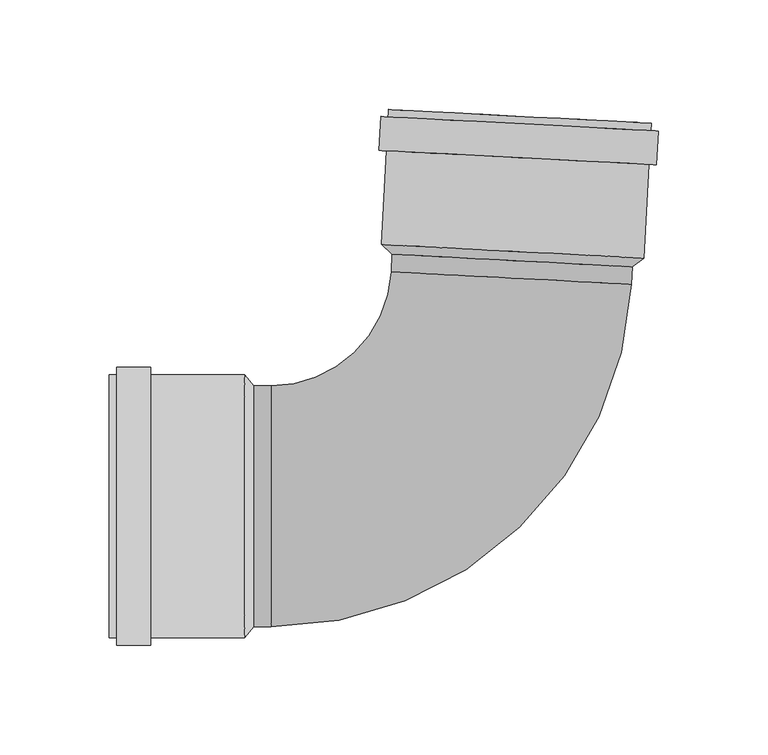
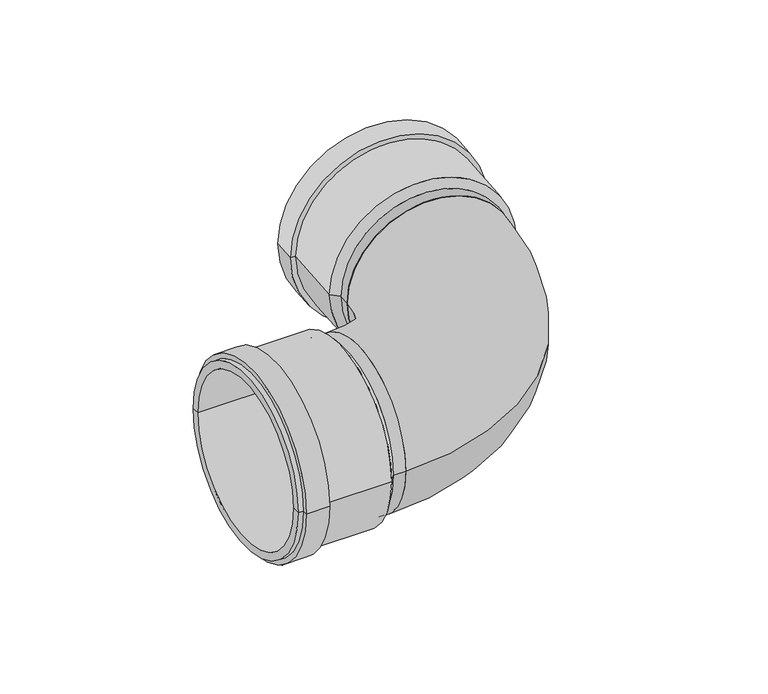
"""IFC4 building model written with IfcOpenShell, lengths in millimetres: pipe fitting geometry, pf_KGBD-SW : pf_KGBD-SW."""

from ifc_helpers import new_model, si_unit, point, frame, origin, origin_2d, place, context, project, spatial, polyline, circle_curve, ellipse_curve, trimmed, segment, composite_curve, outline, extrude, source, transform, mapped, element, save
from ifc_brep_helpers import plane_surface, cylinder_surface, revolved_surface, advanced_brep


def pipe_fitting_9a7229fe(model_context):
    return source(origin(), model_context, "Body", "SolidModel", [
        advanced_brep(
        [(60.8064585, 109.3536035, 0.0), (-49.0427903, 115.1105587, 0.0), (-53.9159899, 119.5717161, 0.0), (66.1192802, 113.2809342, 0.0), (5.8818341, 112.2320811, 0.0), (69.3536423, 174.9962394, 0.0), (-50.6816278, 181.2870214, 0.0), (-45.5886172, 181.020108, 0.0), (64.2606317, 175.2631528, 0.0), (69.1757, 171.600899, 0.0), (-50.85957, 177.8916809, 0.0), (72.5710405, 171.4229567, 0.0), (-54.2549105, 178.0696232, 0.0), (71.7598331, 155.944199, 0.0), (-55.0661178, 162.5908654, 0.0), (68.3644927, 156.1221412, 0.0), (-51.6707774, 162.4129231, 0.0), (61.0262696, 113.5478475, 0.0), (-48.8229793, 119.3048027, 0.0), (6.1016452, 116.4263251, 0.0)],
        [
            (0, 1, circle_curve(frame((5.8818341, 112.2320811, 0.0), z_axis=(0.052335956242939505, 0.9986295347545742, 0.0), x_axis=(-0.9986295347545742, 0.052335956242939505, 0.0)), 55.0)),
            (1, 2),
            (2, 3, circle_curve(frame((6.1016452, 116.4263251, 0.0), z_axis=(-0.052335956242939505, -0.9986295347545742, 0.0), x_axis=(-0.9986295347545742, 0.052335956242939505, 0.0)), 60.1)),
            (3, 0),
            (1, 0, circle_curve(frame((5.8818341, 112.2320811, 0.0), z_axis=(0.052335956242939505, 0.9986295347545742, 0.0), x_axis=(-0.9986295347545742, 0.052335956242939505, 0.0)), 55.0)),
            (3, 2, circle_curve(frame((6.1016452, 116.4263251, 0.0), z_axis=(-0.052335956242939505, -0.9986295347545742, 0.0), x_axis=(-0.9986295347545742, 0.052335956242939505, 0.0)), 60.1)),
            (4, 1),
            (0, 4),
            (5, 6, circle_curve(frame((9.3360072, 178.1416304, 0.0), z_axis=(0.052335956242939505, 0.9986295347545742, 0.0), x_axis=(-0.9986295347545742, 0.052335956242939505, 0.0)), 60.1)),
            (6, 7),
            (7, 8, circle_curve(frame((9.3360072, 178.1416304, 0.0), z_axis=(-0.052335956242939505, -0.9986295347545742, 0.0), x_axis=(-0.9986295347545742, 0.052335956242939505, 0.0)), 55.0)),
            (8, 5),
            (6, 5, circle_curve(frame((9.3360072, 178.1416304, 0.0), z_axis=(0.052335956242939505, 0.9986295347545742, 0.0), x_axis=(-0.9986295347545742, 0.052335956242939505, 0.0)), 60.1)),
            (8, 7, circle_curve(frame((9.3360072, 178.1416304, 0.0), z_axis=(-0.052335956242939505, -0.9986295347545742, 0.0), x_axis=(-0.9986295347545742, 0.052335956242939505, 0.0)), 55.0)),
            (9, 10, circle_curve(frame((9.158065, 174.74629, 0.0), z_axis=(0.052335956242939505, 0.9986295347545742, 0.0), x_axis=(-0.9986295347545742, 0.052335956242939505, 0.0)), 60.1)),
            (10, 6),
            (5, 9),
            (10, 9, circle_curve(frame((9.158065, 174.74629, 0.0), z_axis=(0.052335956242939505, 0.9986295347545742, 0.0), x_axis=(-0.9986295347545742, 0.052335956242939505, 0.0)), 60.1)),
            (11, 12, circle_curve(frame((9.158065, 174.74629, 0.0), z_axis=(0.052335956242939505, 0.9986295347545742, 0.0), x_axis=(-0.9986295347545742, 0.052335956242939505, 0.0)), 63.5)),
            (12, 10),
            (9, 11),
            (12, 11, circle_curve(frame((9.158065, 174.74629, 0.0), z_axis=(0.052335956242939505, 0.9986295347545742, 0.0), x_axis=(-0.9986295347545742, 0.052335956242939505, 0.0)), 63.5)),
            (13, 14, circle_curve(frame((8.3468577, 159.2675322, 0.0), z_axis=(0.052335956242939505, 0.9986295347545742, 0.0), x_axis=(-0.9986295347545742, 0.052335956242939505, 0.0)), 63.5)),
            (14, 12),
            (11, 13),
            (14, 13, circle_curve(frame((8.3468577, 159.2675322, 0.0), z_axis=(0.052335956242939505, 0.9986295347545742, 0.0), x_axis=(-0.9986295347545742, 0.052335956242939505, 0.0)), 63.5)),
            (15, 16, circle_curve(frame((8.3468577, 159.2675322, 0.0), z_axis=(0.052335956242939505, 0.9986295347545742, 0.0), x_axis=(-0.9986295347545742, 0.052335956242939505, 0.0)), 60.1)),
            (16, 14),
            (13, 15),
            (16, 15, circle_curve(frame((8.3468577, 159.2675322, 0.0), z_axis=(0.052335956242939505, 0.9986295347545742, 0.0), x_axis=(-0.9986295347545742, 0.052335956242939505, 0.0)), 60.1)),
            (2, 16),
            (15, 3),
            (17, 18, circle_curve(frame((6.1016452, 116.4263251, 0.0), z_axis=(0.052335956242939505, 0.9986295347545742, 0.0), x_axis=(-0.9986295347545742, 0.052335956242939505, 0.0)), 55.0)),
            (18, 19),
            (19, 17),
            (18, 17, circle_curve(frame((6.1016452, 116.4263251, 0.0), z_axis=(0.052335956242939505, 0.9986295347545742, 0.0), x_axis=(-0.9986295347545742, 0.052335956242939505, 0.0)), 55.0)),
            (7, 18),
            (17, 8),
        ],
        [
            revolved_surface(polyline([(-53.9159899, 119.5717161, 0.0), (-49.0427903, 115.1105587, 0.0)]), (5.8818341, 112.2320811, 0.0), (-0.052335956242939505, -0.9986295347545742, 0.0)),
            plane_surface(frame((5.8818341, 112.2320811, 0.0), z_axis=(-0.052335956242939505, -0.9986295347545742, 0.0), x_axis=(-0.9986295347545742, 0.052335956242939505, 0.0))),
            plane_surface(frame((9.3360072, 178.1416304, 0.0), z_axis=(0.052335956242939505, 0.9986295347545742, 0.0), x_axis=(-0.9986295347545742, 0.052335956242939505, 0.0))),
            cylinder_surface(frame((5.8818341, 112.2320811, 0.0), z_axis=(-0.052335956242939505, -0.9986295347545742, 0.0), x_axis=(-0.9986295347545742, 0.052335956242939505, 0.0)), 60.1),
            plane_surface(frame((9.158065, 174.74629, 0.0), z_axis=(0.052335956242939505, 0.9986295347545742, 0.0), x_axis=(-0.9986295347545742, 0.052335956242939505, 0.0))),
            cylinder_surface(frame((5.8818341, 112.2320811, 0.0), z_axis=(-0.052335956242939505, -0.9986295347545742, 0.0), x_axis=(-0.9986295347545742, 0.052335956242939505, 0.0)), 63.5),
            plane_surface(frame((8.3468577, 159.2675322, 0.0), z_axis=(-0.052335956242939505, -0.9986295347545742, 0.0), x_axis=(-0.9986295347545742, 0.052335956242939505, 0.0))),
            plane_surface(frame((6.1016452, 116.4263251, 0.0), z_axis=(0.052335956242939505, 0.9986295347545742, 0.0), x_axis=(-0.9986295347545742, 0.052335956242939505, 0.0))),
            revolved_surface(polyline([(-48.82297929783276, 119.30480269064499, 0.0), (-45.58861719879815, 181.020107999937, 0.0)]), (5.8818341, 112.2320811, 0.0), (-0.052335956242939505, -0.9986295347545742, 0.0)),
        ],
        [
            (0, [[1, 2, 3, 4]]),
            (0, [[5, -4, 6, -2]]),
            (1, [[7, -1, 8]]),
            (1, [[-8, -5, -7]]),
            (2, [[9, 10, 11, 12]]),
            (2, [[13, -12, 14, -10]]),
            (3, [[15, 16, -9, 17]]),
            (3, [[18, -17, -13, -16]]),
            (4, [[19, 20, -15, 21]]),
            (4, [[22, -21, -18, -20]]),
            (5, [[23, 24, -19, 25]]),
            (5, [[26, -25, -22, -24]]),
            (6, [[27, 28, -23, 29]]),
            (6, [[30, -29, -26, -28]]),
            (3, [[-3, 31, -27, 32]]),
            (3, [[-6, -32, -30, -31]]),
            (7, [[33, 34, 35]]),
            (7, [[36, -35, -34]]),
            (8, [[-11, 37, -33, 38]]),
            (8, [[-14, -38, -36, -37]]),
        ],
    ),
        advanced_brep(
        [(-112.3861023, 55.0, 0.0), (-112.3861023, -55.0, 0.0), (-116.5861023, -60.1, 0.0), (-116.5861023, 60.1, 0.0), (-112.3861023, 0.0, 0.0), (-178.3861023, 60.1, 0.0), (-178.3861023, -60.1, 0.0), (-178.3861023, -55.0, 0.0), (-178.3861023, 55.0, 0.0), (-174.9861023, 60.1, 0.0), (-174.9861023, -60.1, 0.0), (-174.9861023, 63.5, 0.0), (-174.9861023, -63.5, 0.0), (-159.4861023, 63.5, 0.0), (-159.4861023, -63.5, 0.0), (-159.4861023, 60.1, 0.0), (-159.4861023, -60.1, 0.0), (-116.5861023, 55.0, 0.0), (-116.5861023, -55.0, 0.0), (-116.5861023, 0.0, 0.0)],
        [
            (0, 1, circle_curve(frame((-112.3861023, 0.0, 0.0), z_axis=(-1.0, 0.0, 0.0), x_axis=(0.0, -1.0, 0.0)), 55.0)),
            (1, 2),
            (2, 3, circle_curve(frame((-116.5861023, 0.0, 0.0), z_axis=(1.0, 0.0, 0.0), x_axis=(0.0, -1.0, 0.0)), 60.1)),
            (3, 0),
            (1, 0, circle_curve(frame((-112.3861023, 0.0, 0.0), z_axis=(-1.0, 0.0, 0.0), x_axis=(0.0, -1.0, 0.0)), 55.0)),
            (3, 2, circle_curve(frame((-116.5861023, 0.0, 0.0), z_axis=(1.0, 0.0, 0.0), x_axis=(0.0, -1.0, 0.0)), 60.1)),
            (4, 1),
            (0, 4),
            (5, 6, circle_curve(frame((-178.3861023, 0.0, 0.0), z_axis=(-1.0, 0.0, 0.0), x_axis=(0.0, -1.0, 0.0)), 60.1)),
            (6, 7),
            (7, 8, circle_curve(frame((-178.3861023, 0.0, 0.0), z_axis=(1.0, 0.0, 0.0), x_axis=(0.0, -1.0, 0.0)), 55.0)),
            (8, 5),
            (6, 5, circle_curve(frame((-178.3861023, 0.0, 0.0), z_axis=(-1.0, 0.0, 0.0), x_axis=(0.0, -1.0, 0.0)), 60.1)),
            (8, 7, circle_curve(frame((-178.3861023, 0.0, 0.0), z_axis=(1.0, 0.0, 0.0), x_axis=(0.0, -1.0, 0.0)), 55.0)),
            (9, 10, circle_curve(frame((-174.9861023, 0.0, 0.0), z_axis=(-1.0, 0.0, 0.0), x_axis=(0.0, -1.0, 0.0)), 60.1)),
            (10, 6),
            (5, 9),
            (10, 9, circle_curve(frame((-174.9861023, 0.0, 0.0), z_axis=(-1.0, 0.0, 0.0), x_axis=(0.0, -1.0, 0.0)), 60.1)),
            (11, 12, circle_curve(frame((-174.9861023, 0.0, 0.0), z_axis=(-1.0, 0.0, 0.0), x_axis=(0.0, -1.0, 0.0)), 63.5)),
            (12, 10),
            (9, 11),
            (12, 11, circle_curve(frame((-174.9861023, 0.0, 0.0), z_axis=(-1.0, 0.0, 0.0), x_axis=(0.0, -1.0, 0.0)), 63.5)),
            (13, 14, circle_curve(frame((-159.4861023, 0.0, 0.0), z_axis=(-1.0, 0.0, 0.0), x_axis=(0.0, -1.0, 0.0)), 63.5)),
            (14, 12),
            (11, 13),
            (14, 13, circle_curve(frame((-159.4861023, 0.0, 0.0), z_axis=(-1.0, 0.0, 0.0), x_axis=(0.0, -1.0, 0.0)), 63.5)),
            (15, 16, circle_curve(frame((-159.4861023, 0.0, 0.0), z_axis=(-1.0, 0.0, 0.0), x_axis=(0.0, -1.0, 0.0)), 60.1)),
            (16, 14),
            (13, 15),
            (16, 15, circle_curve(frame((-159.4861023, 0.0, 0.0), z_axis=(-1.0, 0.0, 0.0), x_axis=(0.0, -1.0, 0.0)), 60.1)),
            (2, 16),
            (15, 3),
            (17, 18, circle_curve(frame((-116.5861023, 0.0, 0.0), z_axis=(-1.0, 0.0, 0.0), x_axis=(0.0, -1.0, 0.0)), 55.0)),
            (18, 19),
            (19, 17),
            (18, 17, circle_curve(frame((-116.5861023, 0.0, 0.0), z_axis=(-1.0, 0.0, 0.0), x_axis=(0.0, -1.0, 0.0)), 55.0)),
            (7, 18),
            (17, 8),
        ],
        [
            revolved_surface(polyline([(-116.5861023, -60.1, 0.0), (-112.3861023, -55.0, 0.0)]), (-112.3861023, 0.0, 0.0), (1.0, 0.0, 0.0)),
            plane_surface(frame((-112.3861023, 0.0, 0.0), z_axis=(1.0, 0.0, 0.0), x_axis=(0.0, -1.0, 0.0))),
            plane_surface(frame((-178.3861023, 0.0, 0.0), z_axis=(-1.0, 0.0, 0.0), x_axis=(0.0, -1.0, 0.0))),
            cylinder_surface(frame((-112.3861023, 0.0, 0.0), z_axis=(1.0, 0.0, 0.0), x_axis=(0.0, -1.0, 0.0)), 60.1),
            plane_surface(frame((-174.9861023, 0.0, 0.0), z_axis=(-1.0, 0.0, 0.0), x_axis=(0.0, -1.0, 0.0))),
            cylinder_surface(frame((-112.3861023, 0.0, 0.0), z_axis=(1.0, 0.0, 0.0), x_axis=(0.0, -1.0, 0.0)), 63.5),
            plane_surface(frame((-159.4861023, 0.0, 0.0), z_axis=(1.0, 0.0, 0.0), x_axis=(0.0, -1.0, 0.0))),
            plane_surface(frame((-116.5861023, 0.0, 0.0), z_axis=(-1.0, 0.0, 0.0), x_axis=(0.0, -1.0, 0.0))),
            revolved_surface(polyline([(-116.5861023, -55.0, 0.0), (-178.3861023, -55.0, 0.0)]), (-112.3861023, 0.0, 0.0), (1.0, 0.0, 0.0)),
        ],
        [
            (0, [[1, 2, 3, 4]]),
            (0, [[5, -4, 6, -2]]),
            (1, [[7, -1, 8]]),
            (1, [[-8, -5, -7]]),
            (2, [[9, 10, 11, 12]]),
            (2, [[13, -12, 14, -10]]),
            (3, [[15, 16, -9, 17]]),
            (3, [[18, -17, -13, -16]]),
            (4, [[19, 20, -15, 21]]),
            (4, [[22, -21, -18, -20]]),
            (5, [[23, 24, -19, 25]]),
            (5, [[26, -25, -22, -24]]),
            (6, [[27, 28, -23, 29]]),
            (6, [[30, -29, -26, -28]]),
            (3, [[-3, 31, -27, 32]]),
            (3, [[-6, -32, -30, -31]]),
            (7, [[33, 34, 35]]),
            (7, [[36, -35, -34]]),
            (8, [[-11, 37, -33, 38]]),
            (8, [[-14, -38, -36, -37]]),
        ],
    ),
        extrude(outline(composite_curve([segment(trimmed(circle_curve(origin_2d(), 55.0), [point((0.0, -55.0))], [point((0.0, 55.0))], False, "CARTESIAN"), True, "CONTINUOUS"), segment(trimmed(circle_curve(origin_2d(), 55.0), [point((0.0, 55.0))], [point((0.0, -55.0))], False, "CARTESIAN"), True, "CONTINUOUS")], self_intersect=False)), frame((5.4631465, 104.2430448, 0.0), z_axis=(0.05233595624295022, 0.9986295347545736, 0.0), x_axis=(0.0, 0.0, 1.0)), (0.0, 0.0, 1.0), 8.0),
        extrude(outline(composite_curve([segment(trimmed(circle_curve(origin_2d(), 55.0), [point((-55.0, 0.0))], [point((55.0, 0.0))], False, "CARTESIAN"), True, "CONTINUOUS"), segment(trimmed(circle_curve(origin_2d(), 55.0), [point((55.0, 0.0))], [point((-55.0, 0.0))], False, "CARTESIAN"), True, "CONTINUOUS")], self_intersect=False)), frame((-112.3861023, 0.0, 0.0), z_axis=(1.0, 0.0, 0.0), x_axis=(0.0, 1.0, 0.0)), (0.0, 0.0, 1.0), 8.0),
        advanced_brep(
        [(-104.3861023, -55.0, 0.0), (-104.3861023, 55.0, 0.0), (60.3877709, 101.3645672, 0.0), (-49.4614779, 107.1215224, 0.0)],
        [
            (0, 1, circle_curve(frame((-104.3861023, 0.0, 0.0), z_axis=(-1.0, 0.0, 0.0), x_axis=(0.0, 1.0, 0.0)), 55.0)),
            (1, 0, circle_curve(frame((-104.3861023, 0.0, 0.0), z_axis=(-1.0, 0.0, 0.0), x_axis=(0.0, 1.0, 0.0)), 55.0)),
            (2, 3, circle_curve(frame((5.4631465, 104.2430448, 0.0), z_axis=(0.05233595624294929, 0.9986295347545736, 0.0), x_axis=(-0.9986295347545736, 0.05233595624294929, 0.0)), 55.0)),
            (3, 2, circle_curve(frame((5.4631465, 104.2430448, 0.0), z_axis=(0.05233595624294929, 0.9986295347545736, 0.0), x_axis=(-0.9986295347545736, 0.05233595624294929, 0.0)), 55.0)),
            (3, 1, circle_curve(frame((-104.3861023, 110.0, 0.0), z_axis=(0.0, 0.0, -1.0), x_axis=(0.0, -1.0, 0.0)), 55.0)),
            (0, 2, circle_curve(frame((-104.3861023, 110.0, 0.0), z_axis=(0.0, 0.0, 1.0), x_axis=(0.0, -1.0, 0.0)), 165.0)),
        ],
        [
            plane_surface(frame((-104.3861023, 0.0, 0.0), z_axis=(-1.0, 0.0, 0.0), x_axis=(0.0, 0.0, 1.0))),
            plane_surface(frame((5.4631465, 104.2430448, 0.0), z_axis=(0.0523359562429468, 0.9986295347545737, 0.0), x_axis=(0.0, 0.0, 1.0))),
            revolved_surface(trimmed(ellipse_curve(frame((-104.3861023, 0.0, 0.0), z_axis=(-1.0, 0.0, 0.0), x_axis=(0.0, 1.0, 0.0)), 55.0, 55.0), [point((-104.3861023, -55.0, 0.0))], [point((-104.3861023, 55.0, 0.0))], True, "CARTESIAN"), (-104.3861023, 110.0, 0.0), (0.0, 0.0, 1.0)),
            revolved_surface(trimmed(ellipse_curve(frame((-104.3861023, 0.0, 0.0), z_axis=(-1.0, 0.0, 0.0), x_axis=(0.0, 1.0, 0.0)), 55.0, 55.0), [point((-104.3861023, 55.0, 0.0))], [point((-104.3861023, -55.0, 0.0))], True, "CARTESIAN"), (-104.3861023, 110.0, 0.0), (0.0, 0.0, 1.0)),
        ],
        [
            (0, [[1, 2]]),
            (1, [[3, 4]]),
            (2, [[5, -1, 6, -4]]),
            (3, [[-6, -2, -5, -3]]),
        ],
    ),
    ])


if __name__ == "__main__":
    model = new_model("IFC4")
    model_context = context("Model", 3, world=origin())
    ifc_project = project(units=[si_unit("LENGTHUNIT", "METRE", prefix="MILLI")], contexts=[model_context])
    site = spatial("IfcSite", under=ifc_project)
    building = spatial("IfcBuilding", under=site)
    placement = place(None, origin())
    pipe_fitting_shape = pipe_fitting_9a7229fe(model_context)
    element("IfcPipeFitting", 1, ObjectType="pf_KGBD-SW : pf_KGBD-SW", at=placement, inside=building, context=model_context, shape_type="MappedRepresentation", body=[
        mapped(pipe_fitting_shape, transform((0.0, 0.0, 0.0), x_axis=(1.0, 0.0, 0.0), y_axis=(0.0, 1.0, 0.0), z_axis=(0.0, 0.0, 1.0))),
    ])
    save(model, "model.ifc")
